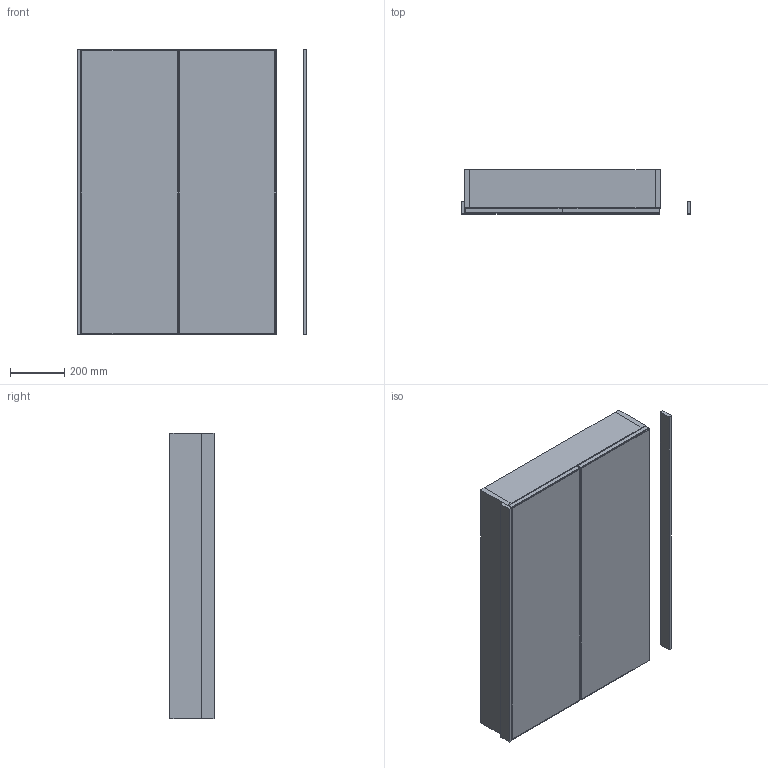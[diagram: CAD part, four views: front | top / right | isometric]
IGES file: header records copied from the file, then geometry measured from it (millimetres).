
Start section: Data from Parasolid IGES Translator 19.0.9, Copyright(c) 2006 Siemens PL M Software. All Rights Reserved.
Global section: file name: noorth-mirror-H 105 D 4,5-16 W 72_9139.igs; native system: By Siemens PLM Incorporated; preprocessor: XPlus GENERIC/IGES 19.0.9; author: Noname; organization: Noname; date: 20200519.111738; units: metre
Bounding box: 843.82 x 162 x 1050 mm (x, y, z)
Volume: 28579852.6 mm3; surface area: 6431312.5 mm2
Topology: 15 solids, 15 shells, 194 faces, 372 edges, 208 vertices
Faces by surface type: plane 194
